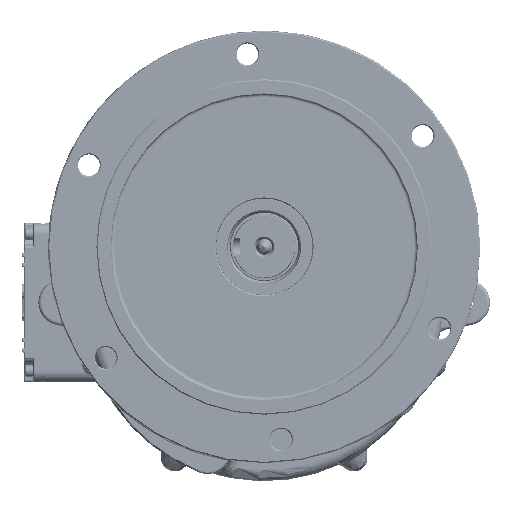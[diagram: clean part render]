
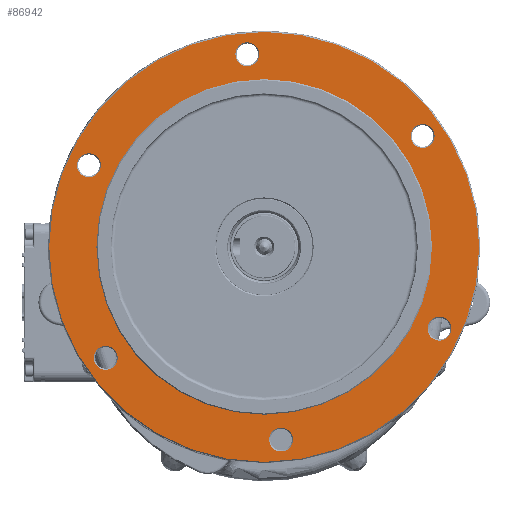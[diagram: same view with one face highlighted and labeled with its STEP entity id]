
A CAD part, front view. The second image highlights one B-rep face of the part: STEP entity #86942.
In plain terms, the highlighted planar face has unit normal (0, -1, 0).
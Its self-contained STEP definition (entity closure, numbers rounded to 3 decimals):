
#2134=FACE_BOUND('',#12127,.T.);
#2135=FACE_BOUND('',#12128,.T.);
#2136=FACE_BOUND('',#12129,.T.);
#2137=FACE_BOUND('',#12130,.T.);
#2138=FACE_BOUND('',#12131,.T.);
#2139=FACE_BOUND('',#12132,.T.);
#2140=FACE_BOUND('',#12133,.T.);
#3884=PLANE('',#93801);
#6745=FACE_OUTER_BOUND('',#12126,.T.);
#12126=EDGE_LOOP('',(#62455));
#12127=EDGE_LOOP('',(#62456));
#12128=EDGE_LOOP('',(#62457));
#12129=EDGE_LOOP('',(#62458));
#12130=EDGE_LOOP('',(#62459));
#12131=EDGE_LOOP('',(#62460));
#12132=EDGE_LOOP('',(#62461));
#12133=EDGE_LOOP('',(#62462));
#17467=CIRCLE('',#93798,10.5);
#17470=CIRCLE('',#93802,189.);
#17471=CIRCLE('',#93803,10.5);
#17472=CIRCLE('',#93804,10.5);
#17473=CIRCLE('',#93805,10.5);
#17474=CIRCLE('',#93806,147.5);
#17475=CIRCLE('',#93807,10.5);
#17476=CIRCLE('',#93808,10.5);
#35401=VERTEX_POINT('',#164709);
#35404=VERTEX_POINT('',#164717);
#35405=VERTEX_POINT('',#164719);
#35406=VERTEX_POINT('',#164721);
#35407=VERTEX_POINT('',#164723);
#35408=VERTEX_POINT('',#164725);
#35409=VERTEX_POINT('',#164727);
#35410=VERTEX_POINT('',#164729);
#45045=EDGE_CURVE('',#35401,#35401,#17467,.T.);
#45049=EDGE_CURVE('',#35404,#35404,#17470,.T.);
#45050=EDGE_CURVE('',#35405,#35405,#17471,.T.);
#45051=EDGE_CURVE('',#35406,#35406,#17472,.T.);
#45052=EDGE_CURVE('',#35407,#35407,#17473,.T.);
#45053=EDGE_CURVE('',#35408,#35408,#17474,.T.);
#45054=EDGE_CURVE('',#35409,#35409,#17475,.T.);
#45055=EDGE_CURVE('',#35410,#35410,#17476,.T.);
#62455=ORIENTED_EDGE('',*,*,#45049,.F.);
#62456=ORIENTED_EDGE('',*,*,#45050,.F.);
#62457=ORIENTED_EDGE('',*,*,#45051,.F.);
#62458=ORIENTED_EDGE('',*,*,#45052,.F.);
#62459=ORIENTED_EDGE('',*,*,#45053,.F.);
#62460=ORIENTED_EDGE('',*,*,#45054,.F.);
#62461=ORIENTED_EDGE('',*,*,#45055,.F.);
#62462=ORIENTED_EDGE('',*,*,#45045,.F.);
#86942=ADVANCED_FACE('',(#6745,#2134,#2135,#2136,#2137,#2138,#2139,#2140),
#3884,.T.);
#93798=AXIS2_PLACEMENT_3D('',#164710,#107127,#107128);
#93801=AXIS2_PLACEMENT_3D('',#164716,#107134,#107135);
#93802=AXIS2_PLACEMENT_3D('',#164718,#107136,#107137);
#93803=AXIS2_PLACEMENT_3D('',#164720,#107138,#107139);
#93804=AXIS2_PLACEMENT_3D('',#164722,#107140,#107141);
#93805=AXIS2_PLACEMENT_3D('',#164724,#107142,#107143);
#93806=AXIS2_PLACEMENT_3D('',#164726,#107144,#107145);
#93807=AXIS2_PLACEMENT_3D('',#164728,#107146,#107147);
#93808=AXIS2_PLACEMENT_3D('',#164730,#107148,#107149);
#107127=DIRECTION('center_axis',(0.,-1.,0.));
#107128=DIRECTION('ref_axis',(-0.5,0.,-0.866));
#107134=DIRECTION('center_axis',(0.,-1.,0.));
#107135=DIRECTION('ref_axis',(0.,0.,-1.));
#107136=DIRECTION('center_axis',(0.,1.,0.));
#107137=DIRECTION('ref_axis',(-1.,0.,0.));
#107138=DIRECTION('center_axis',(0.,-1.,0.));
#107139=DIRECTION('ref_axis',(0.5,0.,-0.866));
#107140=DIRECTION('center_axis',(0.,-1.,0.));
#107141=DIRECTION('ref_axis',(0.5,0.,0.866));
#107142=DIRECTION('center_axis',(0.,-1.,0.));
#107143=DIRECTION('ref_axis',(-1.,0.,0.));
#107144=DIRECTION('center_axis',(0.,-1.,0.));
#107145=DIRECTION('ref_axis',(-1.,0.,0.));
#107146=DIRECTION('center_axis',(0.,-1.,0.));
#107147=DIRECTION('ref_axis',(-0.5,0.,0.866));
#107148=DIRECTION('center_axis',(0.,-1.,0.));
#107149=DIRECTION('ref_axis',(1.,0.,0.));
#164709=CARTESIAN_POINT('',(-148.594,-213.228,128.188));
#164710=CARTESIAN_POINT('Origin',(-153.844,-213.228,119.095));
#164716=CARTESIAN_POINT('Origin',(0.228,-213.228,47.25));
#164717=CARTESIAN_POINT('',(189.228,-213.228,47.25));
#164718=CARTESIAN_POINT('Origin',(0.228,-213.228,47.25));
#164719=CARTESIAN_POINT('',(-144.277,-213.228,-41.165));
#164720=CARTESIAN_POINT('Origin',(-139.027,-213.228,-50.258));
#164721=CARTESIAN_POINT('',(149.051,-213.228,-33.688));
#164722=CARTESIAN_POINT('Origin',(154.301,-213.228,-24.595));
#164723=CARTESIAN_POINT('',(-4.088,-213.228,216.603));
#164724=CARTESIAN_POINT('Origin',(-14.588,-213.228,216.603));
#164725=CARTESIAN_POINT('',(147.728,-213.228,47.25));
#164726=CARTESIAN_POINT('Origin',(0.228,-213.228,47.25));
#164727=CARTESIAN_POINT('',(144.734,-213.228,135.665));
#164728=CARTESIAN_POINT('Origin',(139.484,-213.228,144.758));
#164729=CARTESIAN_POINT('',(4.545,-213.228,-122.103));
#164730=CARTESIAN_POINT('Origin',(15.045,-213.228,-122.103));
